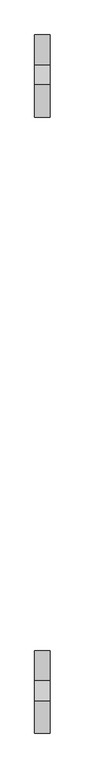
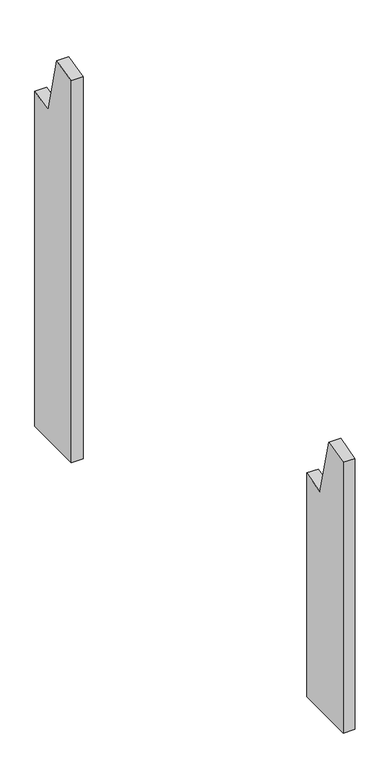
"""IFC4 building model written with IfcOpenShell, lengths in millimetres: proxy geometry, Modelos genéricos 145 : Modelos genéricos 5."""

import ifcopenshell
import ifcopenshell.guid

model = None  # the IFC model being written
_history = None  # IfcOwnerHistory: only IFC2X3 demands one
_inside = {}  # id of a spatial element -> (the spatial element, [elements in it])
_under = {}  # id of a project, library or spatial element -> (it, [spatial elements below it])
_declared = {}  # id of a project -> (the project, [libraries it declares])
_typed = {}  # id of a type object -> (the type object, [elements of that type])
_made_of = {}  # id of a material, layer set ... -> (it, [elements and type objects made of it])


def new_model(schema):
    """Start an empty IFC model of exactly this schema.

    Asked for "IFC4X3", IfcOpenShell would pick the latest addendum, in which some entities
    have other attributes; the version numbers below select the first issue.
    IFC2X3 requires an IfcOwnerHistory on every rooted entity: one is made here for all.
    """
    global model, _history
    if schema == "IFC4X3":
        model = ifcopenshell.file(schema_version=(4, 3, 0, 0))
    else:
        model = ifcopenshell.file(schema=schema)
    _inside.clear()
    _under.clear()
    _declared.clear()
    _typed.clear()
    _made_of.clear()
    _history = None
    if model.schema == "IFC2X3":
        org = make("IfcOrganization", Name="unknown")
        user = make(
            "IfcPersonAndOrganization",
            ThePerson=make("IfcPerson", FamilyName="unknown"),
            TheOrganization=org,
        )
        app = make(
            "IfcApplication",
            ApplicationDeveloper=org,
            Version="unknown",
            ApplicationFullName="unknown",
            ApplicationIdentifier="unknown",
        )
        _history = make(
            "IfcOwnerHistory",
            OwningUser=user,
            OwningApplication=app,
            ChangeAction="ADDED",
            CreationDate=0,
        )
    return model


def make(cls, **values):
    """One entity of the class cls with the attributes given. An attribute that is None is left unset."""
    return model.create_entity(
        cls, **{name: value for name, value in values.items() if value is not None}
    )


def rooted(cls, **values):
    """An entity with a GlobalId (a new one), such as an element, a storey or a relation."""
    return make(cls, GlobalId=ifcopenshell.guid.new(), OwnerHistory=_history, **values)


def si_unit(unit_type, name, prefix=None):
    """IfcSIUnit, for example si_unit("LENGTHUNIT", "METRE", prefix="MILLI")."""
    return make("IfcSIUnit", UnitType=unit_type, Prefix=prefix, Name=name)


def assignment(units):
    """IfcUnitAssignment: the units of a project."""
    return None if units is None else make("IfcUnitAssignment", Units=units)


def point(xyz):
    """IfcCartesianPoint."""
    return None if xyz is None else make("IfcCartesianPoint", Coordinates=xyz)


def direction(xyz):
    """IfcDirection."""
    return None if xyz is None else make("IfcDirection", DirectionRatios=xyz)


def frame(location, z_axis=None, x_axis=None):
    """IfcAxis2Placement3D, a coordinate frame: its origin and axes. An axis left out is left unset."""
    return make(
        "IfcAxis2Placement3D",
        Location=point(location),
        Axis=direction(z_axis),
        RefDirection=direction(x_axis),
    )


def origin():
    """The frame at (0, 0, 0) with its axes left unset."""
    return frame((0.0, 0.0, 0.0))


def place(relative_to, where):
    """IfcLocalPlacement: puts the frame where relative to a parent placement (None: the world)."""
    return make(
        "IfcLocalPlacement", PlacementRelTo=relative_to, RelativePlacement=where
    )


def context(
    kind, dimensions, precision=None, world=None, true_north=None, identifier=None
):
    """IfcGeometricRepresentationContext, for example the 3D "Model" context."""
    return make(
        "IfcGeometricRepresentationContext",
        ContextIdentifier=identifier,
        ContextType=kind,
        CoordinateSpaceDimension=dimensions,
        Precision=precision,
        WorldCoordinateSystem=world,
        TrueNorth=true_north,
    )


def project(units=None, contexts=None):
    """IfcProject with its units and contexts."""
    return rooted(
        "IfcProject",
        Name="project",
        RepresentationContexts=contexts,
        UnitsInContext=assignment(units),
    )


def spatial(cls, under=None, at=None, **own):
    """A site, building, storey or space (cls), placed at a placement, below another one or the project."""
    s = rooted(cls, ObjectPlacement=at, **own)
    if under is not None:
        _under.setdefault(under.id(), (under, []))[1].append(s)
    return s


def polyline(points):
    """IfcPolyline through the points."""
    return make("IfcPolyline", Points=[point(p) for p in points])


def outline(outer, holes=None, kind="AREA"):
    """IfcArbitraryClosedProfileDef: a profile drawn as a closed curve; with holes, ...WithVoids."""
    if holes is None:
        return make("IfcArbitraryClosedProfileDef", ProfileType=kind, OuterCurve=outer)
    return make(
        "IfcArbitraryProfileDefWithVoids",
        ProfileType=kind,
        OuterCurve=outer,
        InnerCurves=holes,
    )


def extrude(swept, where, along, depth):
    """IfcExtrudedAreaSolid: the profile swept, set in the frame where, extruded along a direction by depth."""
    return make(
        "IfcExtrudedAreaSolid",
        SweptArea=swept,
        Position=where,
        ExtrudedDirection=direction(along),
        Depth=depth,
    )


def shape(context_of_items, identifier, shape_type, items):
    """IfcShapeRepresentation: the items that make up one representation, for example the "Body"."""
    return make(
        "IfcShapeRepresentation",
        ContextOfItems=context_of_items,
        RepresentationIdentifier=identifier,
        RepresentationType=shape_type,
        Items=items,
    )


def source(mapping_origin, context_of_items, identifier, shape_type, items):
    """IfcRepresentationMap: a shape defined once, which mapped items show again and again."""
    return make(
        "IfcRepresentationMap",
        MappingOrigin=mapping_origin,
        MappedRepresentation=shape(context_of_items, identifier, shape_type, items),
    )


def transform(
    local_origin,
    x_axis=None,
    y_axis=None,
    z_axis=None,
    scale=None,
    scale2=None,
    scale3=None,
    uniform=True,
):
    """IfcCartesianTransformationOperator3D, or its non-uniform kind. x_axis, y_axis, z_axis: its Axis1, 2, 3."""
    if uniform:
        return make(
            "IfcCartesianTransformationOperator3D",
            Axis1=direction(x_axis),
            Axis2=direction(y_axis),
            LocalOrigin=point(local_origin),
            Scale=scale,
            Axis3=direction(z_axis),
        )
    return make(
        "IfcCartesianTransformationOperator3DnonUniform",
        Axis1=direction(x_axis),
        Axis2=direction(y_axis),
        LocalOrigin=point(local_origin),
        Scale=scale,
        Axis3=direction(z_axis),
        Scale2=scale2,
        Scale3=scale3,
    )


def mapped(mapping_source, mapping_target):
    """IfcMappedItem: shows the shape of a source again, moved by a transform."""
    return make(
        "IfcMappedItem", MappingSource=mapping_source, MappingTarget=mapping_target
    )


def made_of(thing, what):
    """Note that an element or type object is made of a material, layer set ...; save() writes the relation."""
    if what is not None:
        _made_of.setdefault(what.id(), (what, []))[1].append(thing)
    return thing


def element(
    cls,
    number,
    at=None,
    inside=None,
    cuts=None,
    type_object=None,
    material=None,
    context=None,
    identifier="Body",
    shape_type=None,
    held_by="IfcProductDefinitionShape",
    body=None,
    shapes=None,
    **own,
):
    """One element of the class cls, such as IfcWall. Its Tag is "e" and its number.

    at: its placement. inside: the storey or other place that contains it. cuts: it is an
    opening in that element (IfcRelVoidsElement). A single representation is given by context,
    identifier, shape_type and body (its items); several are given by shapes. held_by: the class
    of the entity that holds the representations. save() writes the other relations.
    """
    e = rooted(cls, Tag="e%d" % number, ObjectPlacement=at, **own)
    if body is not None:
        shapes = [shape(context, identifier, shape_type, body)]
    if shapes is not None:
        e.Representation = make(held_by, Representations=shapes)
    if inside is not None:
        _inside.setdefault(inside.id(), (inside, []))[1].append(e)
    if cuts is not None:
        rooted(
            "IfcRelVoidsElement", RelatingBuildingElement=cuts, RelatedOpeningElement=e
        )
    if type_object is not None:
        _typed.setdefault(type_object.id(), (type_object, []))[1].append(e)
    return made_of(e, material)


def aggregate(whole, parts):
    """IfcRelAggregates: a whole, such as a stair, and the parts it consists of."""
    return rooted("IfcRelAggregates", RelatingObject=whole, RelatedObjects=parts)


def save(model, path):
    """Write the relations noted so far, then the file.

    IfcRelAggregates (storeys below a building ...), IfcRelContainedInSpatialStructure (elements
    in a storey), IfcRelDefinesByType, IfcRelAssociatesMaterial and IfcRelDeclares: one each for
    every whole, place, type object, material and project.
    """
    for whole, parts in _under.values():
        aggregate(whole, parts)
    for where, things in _inside.values():
        rooted(
            "IfcRelContainedInSpatialStructure",
            RelatedElements=things,
            RelatingStructure=where,
        )
    for kind, things in _typed.values():
        rooted("IfcRelDefinesByType", RelatedObjects=things, RelatingType=kind)
    for what, things in _made_of.values():
        rooted("IfcRelAssociatesMaterial", RelatedObjects=things, RelatingMaterial=what)
    for by, libraries in _declared.values():
        rooted("IfcRelDeclares", RelatingContext=by, RelatedDefinitions=libraries)
    model.write(path)


def generic_models_847009c9(model_context):
    return source(origin(), model_context, "Body", "SweptSolid", [
        extrude(outline(polyline([(628.6238165, 3000.0), (468.6238165, 3000.0), (468.6238165, 4023.0972283), (531.6985696, 4038.8235305), (570.4060729, 3883.5762143), (628.6238165, 3898.0915281), (628.6238165, 3000.0)])), frame((12933.4472467, 0.0, 0.0), z_axis=(1.0, 0.0, 0.0), x_axis=(0.0, 1.0, 0.0)), (0.0, 0.0, 1.0), 30.0),
        extrude(outline(polyline([(-566.3761835, 3000.0), (-726.3761835, 3000.0), (-726.3761835, 3725.1502649), (-663.3014304, 3740.8765671), (-624.5939271, 3585.6292509), (-566.3761835, 3600.1445647), (-566.3761835, 3000.0)])), frame((12933.4472467, 0.0, 0.0), z_axis=(1.0, 0.0, 0.0), x_axis=(0.0, 1.0, 0.0)), (0.0, 0.0, 1.0), 30.0),
    ])


if __name__ == "__main__":
    model = new_model("IFC4")
    model_context = context("Model", 3, world=origin())
    ifc_project = project(units=[si_unit("LENGTHUNIT", "METRE", prefix="MILLI")], contexts=[model_context])
    site = spatial("IfcSite", under=ifc_project)
    building = spatial("IfcBuilding", under=site)
    placement = place(None, origin())
    generic_models_shape = generic_models_847009c9(model_context)
    element("IfcBuildingElementProxy", 1, Name="Modelos genéricos 145 : Modelos genéricos 5", ObjectType="Modelos genéricos 145 : Modelos genéricos 5", at=placement, inside=building, context=model_context, shape_type="MappedRepresentation", body=[
        mapped(generic_models_shape, transform((0.0, 0.0, 0.0), x_axis=(1.0, 0.0, 0.0), y_axis=(0.0, 1.0, 0.0), z_axis=(0.0, 0.0, 1.0))),
    ])
    save(model, "model.ifc")
